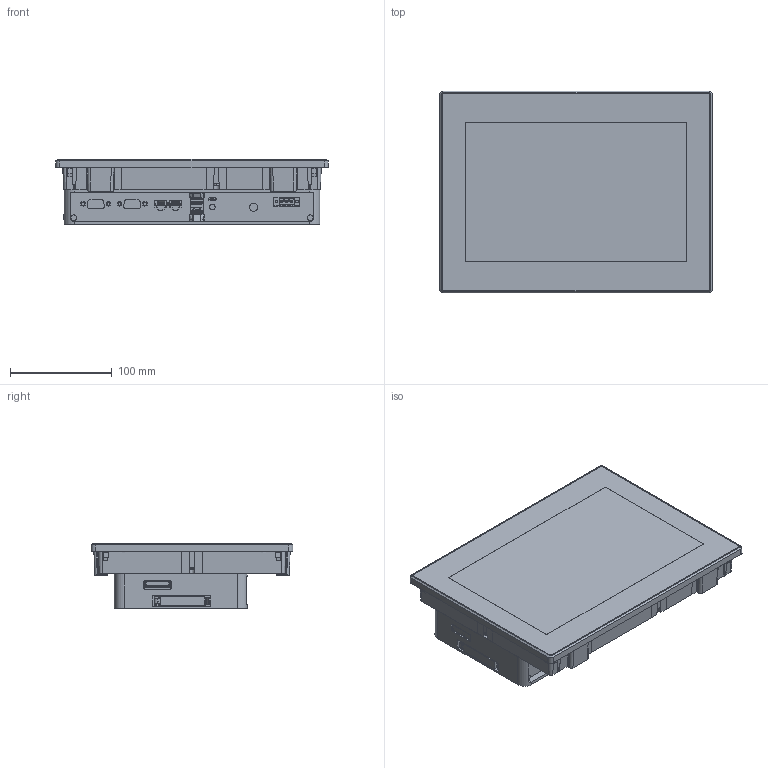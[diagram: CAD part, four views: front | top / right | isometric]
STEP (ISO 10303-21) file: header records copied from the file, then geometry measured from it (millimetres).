
FILE_DESCRIPTION (( 'STEP AP203' ), '1' );
FILE_NAME ('PFXGP6540WCDI.STEP', '2024-05-31T12:46:40', ( '' ), ( '' ), 'SwSTEP 2.0', 'SolidWorks 2021', '' );
FILE_SCHEMA (( 'CONFIG_CONTROL_DESIGN' ));
Products named in the file (1): PFXGP6540WCDI
Bounding box: 268.5 x 198.5 x 64.28 mm (x, y, z)
Volume: 2500844.3 mm3; surface area: 203917.5 mm2
Topology: 7 solids, 20 shells, 2641 faces, 7409 edges, 4855 vertices
Faces by surface type: plane 1685, cylinder 626, bspline 270, cone 60
Entity records: 108544 total; most frequent: CARTESIAN_POINT 43798, ORIENTED_EDGE 14810, DIRECTION 11381, EDGE_CURVE 7405, LINE 5155, VECTOR 5155, VERTEX_POINT 4855, AXIS2_PLACEMENT_3D 3113
